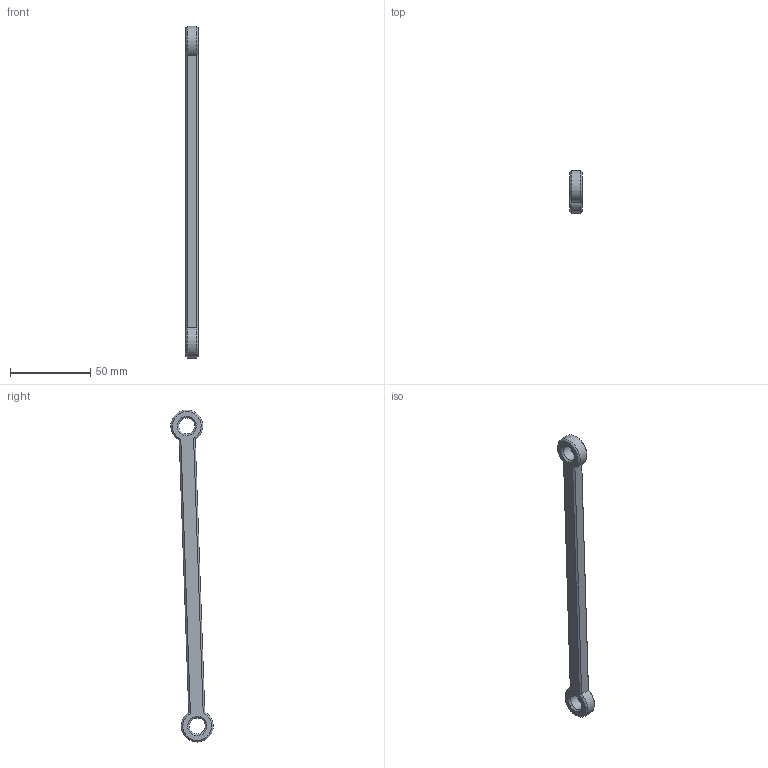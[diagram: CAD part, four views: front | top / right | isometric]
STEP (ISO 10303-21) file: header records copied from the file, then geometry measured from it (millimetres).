
FILE_DESCRIPTION(/* description */ ('STEP AP242 Edition 2','CAx-IF Rec.Pracs.---Representation and Presentation of Product Manufacturing Information (PMI)---4.0---2014-10-13','CAx-IF Rec.Pracs.---3D Tessellated Geometry---0.4---2014-09-14','2;1','CAx-IF Rec.Pracs.---User Defined Attributes---1.5---2016-08-15'),/* implementation_level */ '2;1');
FILE_NAME(/* name */ 'Assy_ForMFG - KD-D-503X_ANKLE_LINK-S',/* time_stamp */ '2026-05-15T19:56:38Z',/* author */ (''),/* organization */ (''),/* preprocessor_version */ 'ST-DEVELOPER v20',/* originating_system */ 'ONSHAPE BY PTC INC, 1.215',/* authorisation */ ' ');
FILE_SCHEMA (('AP242_MANAGED_MODEL_BASED_3D_ENGINEERING_MIM_LF { 1 0 10303 442 3 1 4 }'));
Length unit declared in the file: metre
Products named in the file (1): KD-D-503X_ANKLE_LINK-S
Bounding box: 8 x 26.54 x 207.47 mm (x, y, z)
Volume: 16737 mm3; surface area: 7784.2 mm2
Topology: 1 solids, 1 shells, 20 faces, 47 edges, 29 vertices
Faces by surface type: cone 8, plane 8, cylinder 4
Full cylindrical faces by diameter (mm): 10 x2
Entity records: 534 total; most frequent: CARTESIAN_POINT 105, DIRECTION 86, ORIENTED_EDGE 72, AXIS2_PLACEMENT_3D 37, EDGE_CURVE 36, EDGE_LOOP 30, FACE_BOUND 30, VERTEX_POINT 24
